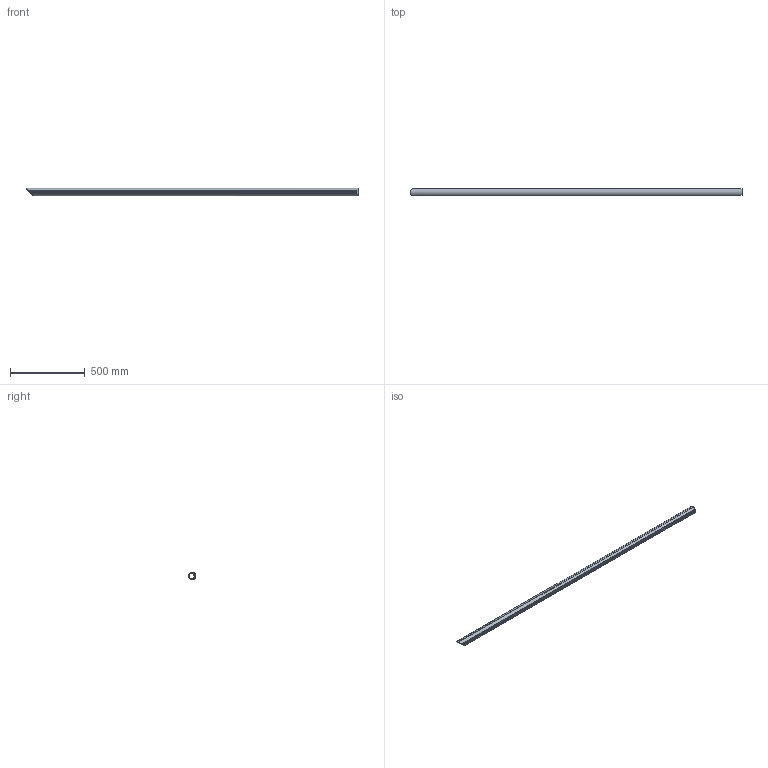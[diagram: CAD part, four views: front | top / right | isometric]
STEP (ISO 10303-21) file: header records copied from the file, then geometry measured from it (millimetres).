
FILE_DESCRIPTION(/* description */ (''),/* implementation_level */ '2;1');
FILE_NAME(/* name */ 'Pos125-HANDREGEL PROFIEL 50X47-Aluminium-1st',/* time_stamp */ '2024-08-06T11:49:42+02:00',/* author */ (''),/* organization */ (''),/* preprocessor_version */ 'ST-DEVELOPER v16.5',/* originating_system */ 'HiCAD 2024 2901.2 Build 361',/* authorisation */ '');
FILE_SCHEMA (('AUTOMOTIVE_DESIGN { 1 0 10303 214 1 1 1 1 }'));
Length unit declared in the file: millimetre
Products named in the file (1): Pos125-HANDREGEL PROFIEL 50X47-Aluminium-1st
Bounding box: 2220.95 x 46.5 x 50 mm (x, y, z)
Volume: 1208549.5 mm3; surface area: 817928.5 mm2
Topology: 1 solids, 1 shells, 44 faces, 126 edges, 84 vertices
Faces by surface type: cylinder 30, plane 14
Entity records: 2752 total; most frequent: DIRECTION 274, CARTESIAN_POINT 254, PRESENTATION_STYLE_ASSIGNMENT 253, COLOUR_RGB 253, DRAUGHTING_PRE_DEFINED_CURVE_FONT 252, CURVE_STYLE 252, OVER_RIDING_STYLED_ITEM 252, ORIENTED_EDGE 252
